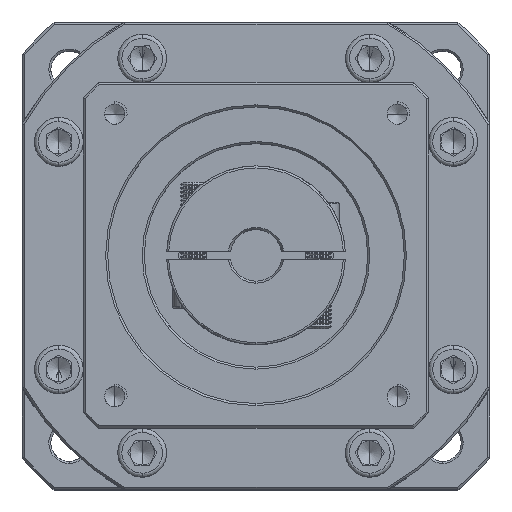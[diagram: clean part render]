
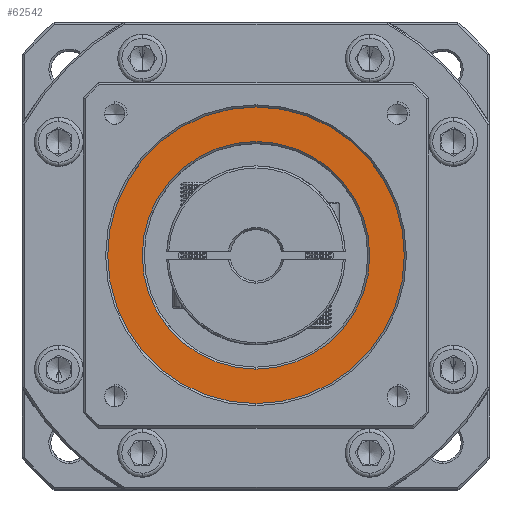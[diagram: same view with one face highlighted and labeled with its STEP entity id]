
A CAD part, top view. The second image highlights one B-rep face of the part: STEP entity #62542.
In plain terms, the highlighted planar face has unit normal (0, 0, 1).
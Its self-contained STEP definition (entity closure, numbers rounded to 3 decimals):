
#1430 = CIRCLE ( 'NONE', #91643, 36.5 ) ;
#3350 = AXIS2_PLACEMENT_3D ( 'NONE', #127380, #118866, #76907 ) ;
#5785 = CIRCLE ( 'NONE', #132475, 36.5 ) ;
#8871 = AXIS2_PLACEMENT_3D ( 'NONE', #19096, #79895, #39256 ) ;
#10778 = CARTESIAN_POINT ( 'NONE',  ( -45.676, 19.103, 265.002 ) ) ;
#19096 = CARTESIAN_POINT ( 'NONE',  ( -45.676, -8.897, 265.002 ) ) ;
#26303 = CARTESIAN_POINT ( 'NONE',  ( -45.676, -8.897, 265.002 ) ) ;
#28424 = CARTESIAN_POINT ( 'NONE',  ( -45.676, -8.897, 265.002 ) ) ;
#29489 = EDGE_CURVE ( 'NONE', #84968, #39146, #88258, .T. ) ;
#30213 = DIRECTION ( 'NONE',  ( 0., -1., 0. ) ) ;
#39146 = VERTEX_POINT ( 'NONE', #131223 ) ;
#39256 = DIRECTION ( 'NONE',  ( 0., -1., 0. ) ) ;
#42016 = AXIS2_PLACEMENT_3D ( 'NONE', #26303, #117886, #97730 ) ;
#43837 = CARTESIAN_POINT ( 'NONE',  ( -45.676, 27.603, 265.002 ) ) ;
#61401 = CARTESIAN_POINT ( 'NONE',  ( -45.676, -45.397, 265.002 ) ) ;
#61647 = VERTEX_POINT ( 'NONE', #61401 ) ;
#62542 = ADVANCED_FACE ( 'NONE', ( #84942, #65762 ), #98171, .T. ) ;
#63321 = EDGE_CURVE ( 'NONE', #108092, #61647, #1430, .T. ) ;
#65762 = FACE_BOUND ( 'NONE', #132242, .T. ) ;
#67597 = EDGE_LOOP ( 'NONE', ( #113879, #120108 ) ) ;
#76907 = DIRECTION ( 'NONE',  ( 0., -1., 0. ) ) ;
#78973 = EDGE_CURVE ( 'NONE', #39146, #84968, #93726, .T. ) ;
#79895 = DIRECTION ( 'NONE',  ( 0., 0., -1. ) ) ;
#82093 = EDGE_CURVE ( 'NONE', #61647, #108092, #5785, .T. ) ;
#84942 = FACE_OUTER_BOUND ( 'NONE', #67597, .T. ) ;
#84968 = VERTEX_POINT ( 'NONE', #10778 ) ;
#88258 = CIRCLE ( 'NONE', #3350, 28. ) ;
#91643 = AXIS2_PLACEMENT_3D ( 'NONE', #108751, #95311, #129310 ) ;
#93726 = CIRCLE ( 'NONE', #8871, 28. ) ;
#95311 = DIRECTION ( 'NONE',  ( 0., 0., 1. ) ) ;
#97730 = DIRECTION ( 'NONE',  ( 0., -1., 0. ) ) ;
#98171 = PLANE ( 'NONE',  #42016 ) ;
#100090 = ORIENTED_EDGE ( 'NONE', *, *, #78973, .T. ) ;
#108092 = VERTEX_POINT ( 'NONE', #43837 ) ;
#108751 = CARTESIAN_POINT ( 'NONE',  ( -45.676, -8.897, 265.002 ) ) ;
#111475 = DIRECTION ( 'NONE',  ( 0., 0., 1. ) ) ;
#113879 = ORIENTED_EDGE ( 'NONE', *, *, #82093, .T. ) ;
#117886 = DIRECTION ( 'NONE',  ( 0., 0., 1. ) ) ;
#118866 = DIRECTION ( 'NONE',  ( 0., 0., -1. ) ) ;
#120108 = ORIENTED_EDGE ( 'NONE', *, *, #63321, .T. ) ;
#126968 = ORIENTED_EDGE ( 'NONE', *, *, #29489, .T. ) ;
#127380 = CARTESIAN_POINT ( 'NONE',  ( -45.676, -8.897, 265.002 ) ) ;
#129310 = DIRECTION ( 'NONE',  ( 0., -1., 0. ) ) ;
#131223 = CARTESIAN_POINT ( 'NONE',  ( -45.676, -36.897, 265.002 ) ) ;
#132242 = EDGE_LOOP ( 'NONE', ( #100090, #126968 ) ) ;
#132475 = AXIS2_PLACEMENT_3D ( 'NONE', #28424, #111475, #30213 ) ;
